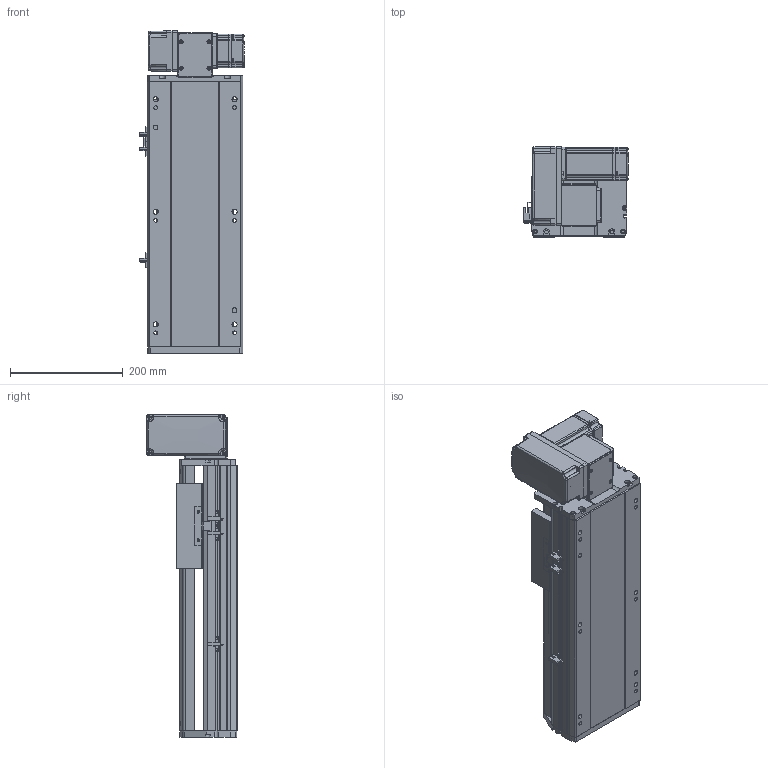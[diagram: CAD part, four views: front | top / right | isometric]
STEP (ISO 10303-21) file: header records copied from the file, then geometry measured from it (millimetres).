
FILE_DESCRIPTION (( 'STEP AP214' ), '1' );
FILE_NAME ('RTB17S-XX-200-LW-M40-C4.STEP', '2025-12-11T06:54:43', ( '' ), ( '' ), 'SwSTEP 2.0', 'SolidWorks 2018', '' );
FILE_SCHEMA (( 'AUTOMOTIVE_DESIGN' ));
Length unit declared in the file: millimetre
Products named in the file (14): RTB14-L-008-M20--萇儂啣^RTB17S-LW-々湍釱蚾饜-400W_RTB17S-XX-XX-LW-M40-C4; RTB17S-L-001耜醱啣^RTB17S-XX-XX-LW-M40-C4; RTB17S-L-004佪裝蹟譫蟀諉釱^RTB17S-XX-XX-LW-M40-C4; RTB14-L-017P^RTB17S-LW-々湍釱蚾饜-400W_RTB17S-XX-XX-LW-M40-C4; RTB17S-L-014-T20--々湍釱^RTB17S-LW-々湍釱蚾饜-400W_RTB17S-XX-XX-LW-M40-C4; RTB17-R-011菁釱^RTB17S-XX-XX-LW-M40-C4; OMRON EE-SX672 传感器^RTB17S-XX-XX-LW-M40-C4; RTB14-L-005P--轴承塑胶压盖^RTB17S-LW-皮带座装配-400W_RTB17S-XX-XX-LW-M40-C4; RTH13-BL-012覜茼え俋离^RTB17S-XX-XX-LW-M40-C4; RTB17S-LW-々湍釱蚾饜-400W^RTB17S-XX-XX-LW-M40-C4; RTB17S-XX-200-LW-M40-C4; RTB14-L-018P^RTB17S-LW-々湍釱蚾饜-400W_RTB17S-XX-XX-LW-M40-C4; 400W侜督萇儂^RTB17S-XX-XX-LW-M40-C4; RTB17S-L-007奻裔^RTB17S-XX-XX-LW-M40-C4
Assembly tree (16 placements, depth 3):
  RTB17S-XX-200-LW-M40-C4
    RTB17-R-011菁釱^RTB17S-XX-XX-LW-M40-C4
    RTB17S-L-007奻裔^RTB17S-XX-XX-LW-M40-C4
    OMRON EE-SX672 传感器^RTB17S-XX-XX-LW-M40-C4  x3
    RTB17S-L-001耜醱啣^RTB17S-XX-XX-LW-M40-C4
    400W侜督萇儂^RTB17S-XX-XX-LW-M40-C4
    RTB17S-L-004佪裝蹟譫蟀諉釱^RTB17S-XX-XX-LW-M40-C4
    RTH13-BL-012覜茼え俋离^RTB17S-XX-XX-LW-M40-C4
    RTB17S-LW-々湍釱蚾饜-400W^RTB17S-XX-XX-LW-M40-C4
      RTB17S-L-014-T20--々湍釱^RTB17S-LW-々湍釱蚾饜-400W_RTB17S-XX-XX-LW-M40-C4
      RTB14-L-005P--轴承塑胶压盖^RTB17S-LW-皮带座装配-400W_RTB17S-XX-XX-LW-M40-C4
      RTB14-L-008-M20--萇儂啣^RTB17S-LW-々湍釱蚾饜-400W_RTB17S-XX-XX-LW-M40-C4
      RTB14-L-017P^RTB17S-LW-々湍釱蚾饜-400W_RTB17S-XX-XX-LW-M40-C4  x2
      RTB14-L-018P^RTB17S-LW-々湍釱蚾饜-400W_RTB17S-XX-XX-LW-M40-C4
Bounding box: 186 x 160.5 x 572.5 mm (x, y, z)
Volume: 5853064.3 mm3; surface area: 785732.4 mm2
Topology: 15 solids, 15 shells, 2141 faces, 5871 edges, 3825 vertices
Faces by surface type: plane 1060, cylinder 633, bspline 301, cone 139, torus 8
Entity records: 59561 total; most frequent: CARTESIAN_POINT 16476, ORIENTED_EDGE 8586, DIRECTION 8036, EDGE_CURVE 4293, VERTEX_POINT 2813, AXIS2_PLACEMENT_3D 2743, LINE 2550, VECTOR 2550
